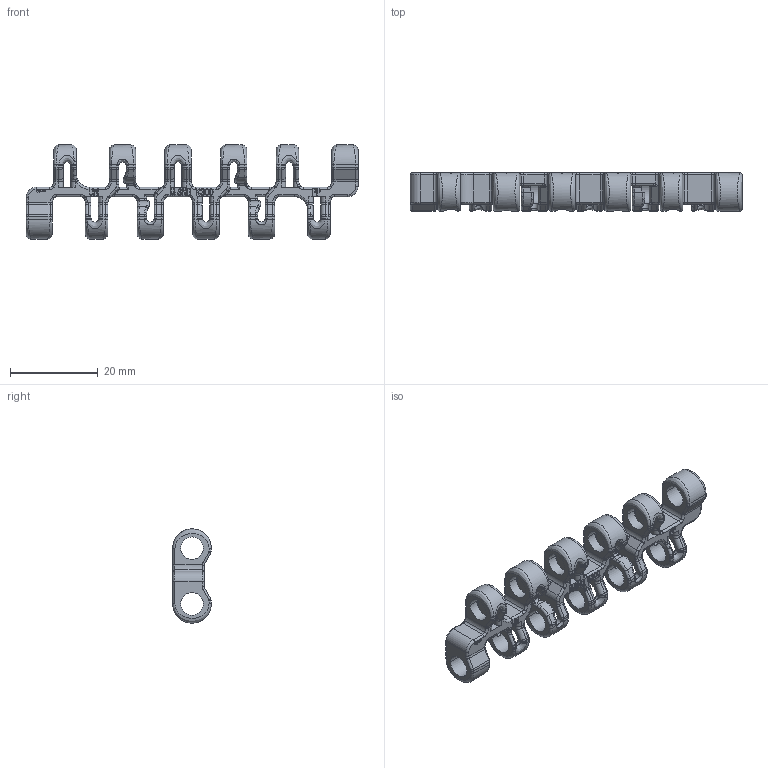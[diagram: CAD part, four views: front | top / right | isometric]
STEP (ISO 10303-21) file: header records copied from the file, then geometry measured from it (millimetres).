
FILE_DESCRIPTION((''),'2;1');
FILE_NAME('P613','2009-01-16T',('jbe'),(''),'PRO/ENGINEER BY PARAMETRIC TECHNOLOGY CORPORATION, 2008310','PRO/ENGINEER BY PARAMETRIC TECHNOLOGY CORPORATION, 2008310','');
FILE_SCHEMA(('CONFIG_CONTROL_DESIGN'));
Length unit declared in the file: millimetre
Products named in the file (1): P613
Bounding box: 75.85 x 8.8 x 21.49 mm (x, y, z)
Volume: 3864.8 mm3; surface area: 5038.8 mm2
Topology: 2 solids, 2 shells, 1277 faces, 3382 edges, 2065 vertices
Faces by surface type: plane 566, cylinder 319, bspline 206, torus 174, sphere 12
Entity records: 66098 total; most frequent: CARTESIAN_POINT 35470, ORIENTED_EDGE 6764, DIRECTION 6043, EDGE_CURVE 3382, AXIS2_PLACEMENT_3D 2065, VERTEX_POINT 2065, VECTOR 1913, LINE 1913
